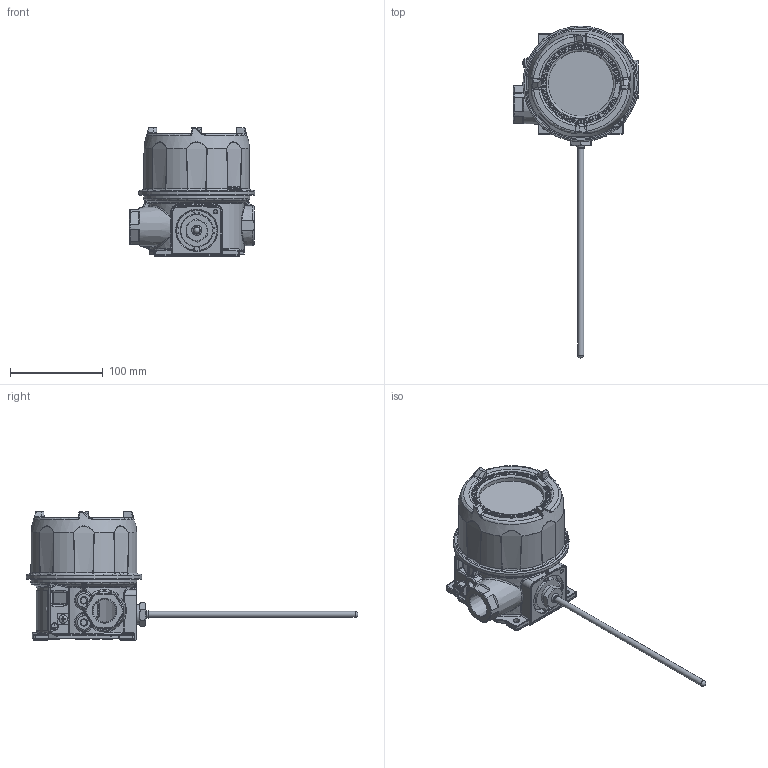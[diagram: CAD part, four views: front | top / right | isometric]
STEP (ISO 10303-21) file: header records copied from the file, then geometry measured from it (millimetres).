
FILE_DESCRIPTION (( 'STEP AP214' ), '1' );
FILE_NAME ('2SLP47_48_49_TL3_V7.STEP', '2025-03-13T17:36:01', ( '' ), ( '' ), 'SwSTEP 2.0', 'SolidWorks 2023', '' );
FILE_SCHEMA (( 'AUTOMOTIVE_DESIGN' ));
Length unit declared in the file: inch
Products named in the file (1): 2SLP47_48_49_TL3_V7
Bounding box: 135 x 357.62 x 138.33 mm (x, y, z)
Surface area: 103681.1 mm2 (no closed solid volume)
Topology: 0 solids, 21 shells, 1336 faces, 4534 edges, 3000 vertices
Faces by surface type: plane 520, bspline 350, cylinder 173, torus 167, cone 105, sphere 21
Full cylindrical faces by diameter (mm): 3.3 x1, 6.426 x1, 7.722 x1, 9.5 x1, 70.104 x1, 114.046 x1, 124.714 x1
Entity records: 70212 total; most frequent: CARTESIAN_POINT 35445, ORIENTED_EDGE 7114, DIRECTION 6157, EDGE_CURVE 4421, VERTEX_POINT 2973, VECTOR 2311, LINE 2311, AXIS2_PLACEMENT_3D 1923
